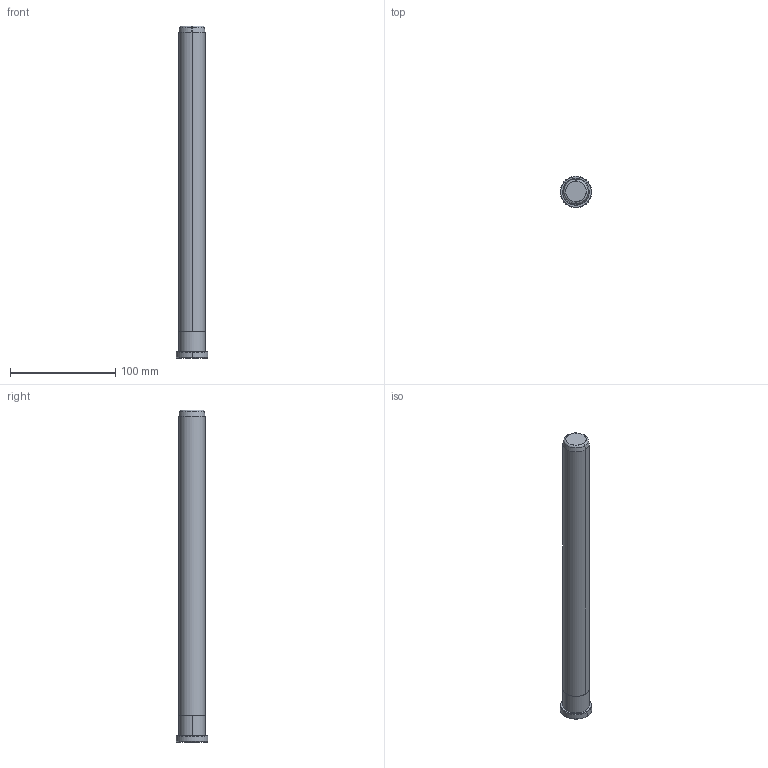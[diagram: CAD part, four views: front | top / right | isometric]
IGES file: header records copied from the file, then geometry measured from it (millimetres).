
Start section: START RECORD GO HERE.
Global section: file name: B80825315.igs; native system: DASSAULT SYSTEMES CATIA V5 R20 - www.3ds.com; preprocessor: CATIA Version 5 Release 20 ; author: Utente; organization: NB04-ASUS; date: 20200419.164833; units: millimetre
Bounding box: 30 x 30 x 315 mm (x, y, z)
Surface area: 26058.9 mm2 (no closed solid volume)
Topology: 0 solids, 0 shells, 20 faces, 80 edges, 80 vertices
Faces by surface type: revolution 16, plane 4
